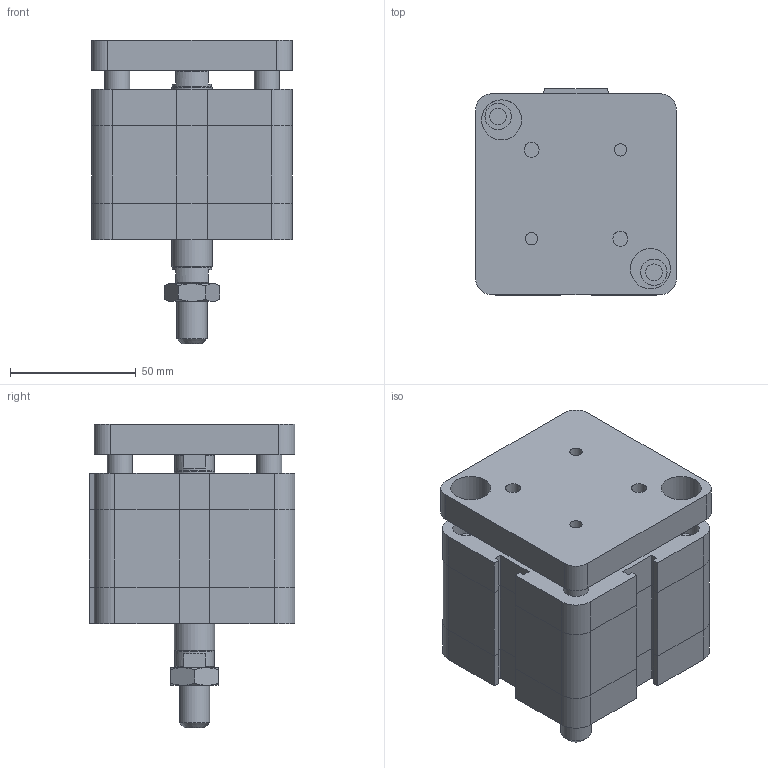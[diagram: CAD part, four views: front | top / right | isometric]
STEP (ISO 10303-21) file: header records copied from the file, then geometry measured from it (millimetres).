
FILE_DESCRIPTION((''),'2;1');
FILE_NAME('I:\Area Tecnica\Disegni\VARIE-3D\Componenti\EUROPE\15##_###_####_09_#\1581_63_0010_09_1.iam.stp','2009-04-20T15:47:07',(''),(''),'Autodesk Inventor 2009','Autodesk Inventor 2009','');
FILE_SCHEMA(('AUTOMOTIVE_DESIGN { 1 0 10303 214 1 1 1 1 }'));
Length unit declared in the file: millimetre
Products named in the file (4): 1581_63_0010_09_1; 1581_63_0010_08_1_C; 1561_63_0010_09_1_SA; DBFM12
Assembly tree (3 placements, depth 2):
  1581_63_0010_09_1
    1581_63_0010_08_1_C
    1561_63_0010_09_1_SA
    DBFM12
Bounding box: 80 x 82 x 121 mm (x, y, z)
Volume: 444763.9 mm3; surface area: 67153 mm2
Topology: 3 solids, 3 shells, 209 faces, 470 edges, 287 vertices
Faces by surface type: plane 120, bspline 45, cylinder 23, cone 21
Full cylindrical faces by diameter (mm): 10 x2, 10.8 x1, 12 x1, 15.6 x2, 16 x1
Entity records: 5963 total; most frequent: CARTESIAN_POINT 1453, DIRECTION 838, ORIENTED_EDGE 834, EDGE_CURVE 417, AXIS2_PLACEMENT_3D 282, EDGE_LOOP 282, VECTOR 274, LINE 274
